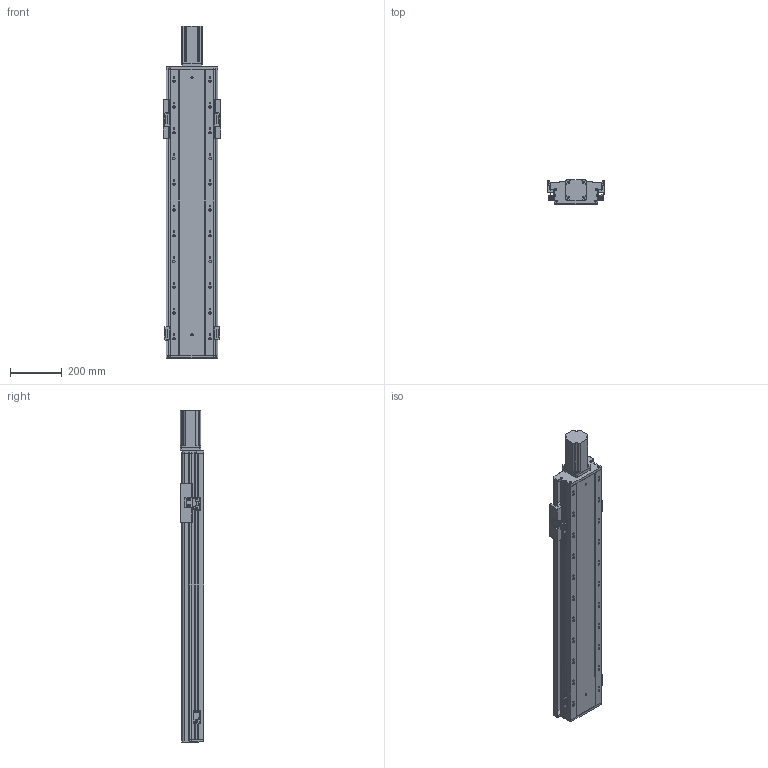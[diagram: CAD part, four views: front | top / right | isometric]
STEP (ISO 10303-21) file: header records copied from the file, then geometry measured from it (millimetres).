
FILE_DESCRIPTION (( 'STEP AP203' ), '1' );
FILE_NAME ('RY170FB-L2510-300-MK.SLDASM_800.step', '2021-02-22T08:56:47', ( '盈信电脑' ), ( '东莞市道滘镇水果街19号' ), 'SwSTEP 2.0', 'SolidWorks 2012', '' );
FILE_SCHEMA (( 'CONFIG_CONTROL_DESIGN' ));
Length unit declared in the file: millimetre
Products named in the file (16): RY170FB-L2510-300-MK.SLDASM_800; RY140FB-覜茼え; RY140-674嫖萇耀輸; RY140直线电机感应器674光电安装座; RY140FB-674嫖萇覜茼え; 覜茼ん674; 750W萇儂梓袧蛌諉啣; RY170FB-300奻裔_800; 侂狟750W萇儂ㄗ80遺ㄘ; RY170FB-铝滑块(25丝杆）; 滅袉蝶18-28; 滅袉蝶18-10; RY170FB-綴裔啣; RY170FB-ヶ裔啣; RY170FB-300倰第菁釱-MK_800
Assembly tree (20 placements, depth 3):
  RY170FB-L2510-300-MK.SLDASM_800
    RY170FB-300倰第菁釱-MK_800
    RY170FB-綴裔啣
    RY170FB-ヶ裔啣
    滅袉蝶18-28
    滅袉蝶18-10
    RY170FB-铝滑块(25丝杆）
    RY170FB-300奻裔_800
    750W萇儂梓袧蛌諉啣
    侂狟750W萇儂ㄗ80遺ㄘ
    RY140-674嫖萇耀輸  x2
      覜茼ん674
      RY140直线电机感应器674光电安装座
    RY140FB-674嫖萇覜茼え
    RY140-674嫖萇耀輸  x2
      覜茼ん674
      RY140直线电机感应器674光电安装座
    RY140FB-覜茼え
Bounding box: 225 x 93.2 x 1289.5 mm (x, y, z)
Volume: 6944194.1 mm3; surface area: 1963870 mm2
Topology: 21 solids, 21 shells, 1685 faces, 4889 edges, 3142 vertices
Faces by surface type: cylinder 804, plane 761, cone 120
Entity records: 44569 total; most frequent: CARTESIAN_POINT 9982, ORIENTED_EDGE 6990, DIRECTION 6813, EDGE_CURVE 3495, AXIS2_PLACEMENT_3D 2485, VERTEX_POINT 2296, LINE 1843, VECTOR 1843
